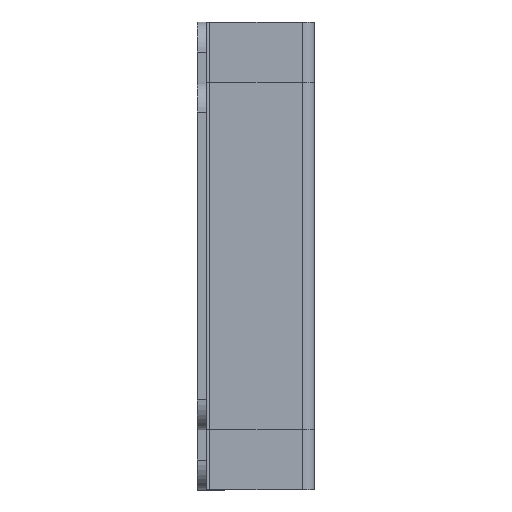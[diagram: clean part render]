
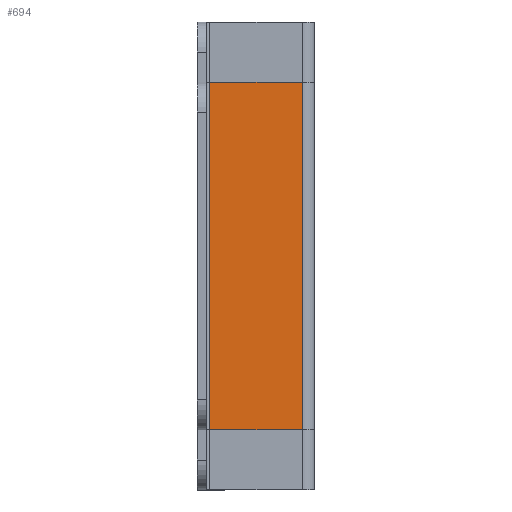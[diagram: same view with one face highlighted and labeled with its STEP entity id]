
A CAD part, left-side view. The second image highlights one B-rep face of the part: STEP entity #694.
In plain terms, the highlighted planar face has unit normal (-1, 0, 0).
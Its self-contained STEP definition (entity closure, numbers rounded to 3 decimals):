
#51 = CARTESIAN_POINT ( 'NONE',  ( -17.5, 10., 29. ) ) ;
#131 = DIRECTION ( 'NONE',  ( 0., 0., -1. ) ) ;
#165 = EDGE_CURVE ( 'NONE', #925, #2740, #2515, .T. ) ;
#182 = CARTESIAN_POINT ( 'NONE',  ( -17.5, 10., 29. ) ) ;
#385 = PLANE ( 'NONE',  #2869 ) ;
#470 = CARTESIAN_POINT ( 'NONE',  ( -17.5, 10., -29. ) ) ;
#475 = CARTESIAN_POINT ( 'NONE',  ( -17.5, -5.5, 29. ) ) ;
#489 = VECTOR ( 'NONE', #1342, 1000. ) ;
#694 = ADVANCED_FACE ( 'NONE', ( #2225 ), #385, .F. ) ;
#738 = VERTEX_POINT ( 'NONE', #1220 ) ;
#781 = ORIENTED_EDGE ( 'NONE', *, *, #1521, .T. ) ;
#786 = CARTESIAN_POINT ( 'NONE',  ( -17.5, 10., -29. ) ) ;
#925 = VERTEX_POINT ( 'NONE', #51 ) ;
#931 = ORIENTED_EDGE ( 'NONE', *, *, #1841, .F. ) ;
#993 = LINE ( 'NONE', #470, #1651 ) ;
#1103 = CARTESIAN_POINT ( 'NONE',  ( -17.5, 10., 29. ) ) ;
#1186 = DIRECTION ( 'NONE',  ( 0., 1., 0. ) ) ;
#1214 = ORIENTED_EDGE ( 'NONE', *, *, #2111, .F. ) ;
#1220 = CARTESIAN_POINT ( 'NONE',  ( -17.5, -5.5, 29. ) ) ;
#1342 = DIRECTION ( 'NONE',  ( 0., -1., 0. ) ) ;
#1465 = VECTOR ( 'NONE', #1772, 1000. ) ;
#1516 = DIRECTION ( 'NONE',  ( 0., -1., 0. ) ) ;
#1521 = EDGE_CURVE ( 'NONE', #2740, #3074, #993, .T. ) ;
#1651 = VECTOR ( 'NONE', #1516, 1000. ) ;
#1772 = DIRECTION ( 'NONE',  ( 0., 0., -1. ) ) ;
#1784 = CARTESIAN_POINT ( 'NONE',  ( -17.5, 10., 29. ) ) ;
#1841 = EDGE_CURVE ( 'NONE', #925, #738, #3409, .T. ) ;
#1947 = DIRECTION ( 'NONE',  ( 1., 0., 0. ) ) ;
#2111 = EDGE_CURVE ( 'NONE', #738, #3074, #2270, .T. ) ;
#2225 = FACE_OUTER_BOUND ( 'NONE', #2412, .T. ) ;
#2270 = LINE ( 'NONE', #475, #1465 ) ;
#2412 = EDGE_LOOP ( 'NONE', ( #781, #1214, #931, #2973 ) ) ;
#2515 = LINE ( 'NONE', #1784, #2702 ) ;
#2702 = VECTOR ( 'NONE', #131, 1000. ) ;
#2740 = VERTEX_POINT ( 'NONE', #786 ) ;
#2869 = AXIS2_PLACEMENT_3D ( 'NONE', #182, #1947, #1186 ) ;
#2973 = ORIENTED_EDGE ( 'NONE', *, *, #165, .T. ) ;
#3074 = VERTEX_POINT ( 'NONE', #3154 ) ;
#3154 = CARTESIAN_POINT ( 'NONE',  ( -17.5, -5.5, -29. ) ) ;
#3409 = LINE ( 'NONE', #1103, #489 ) ;
